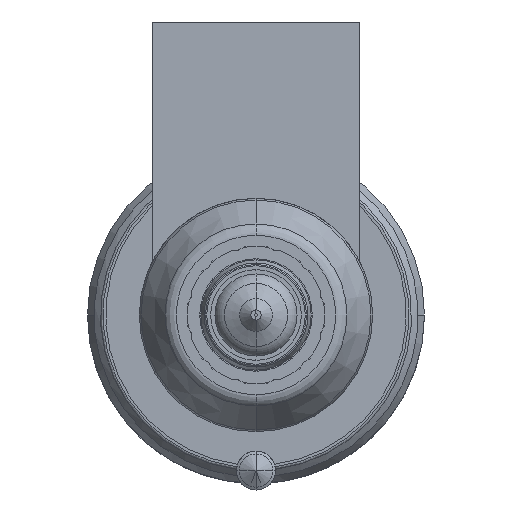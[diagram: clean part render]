
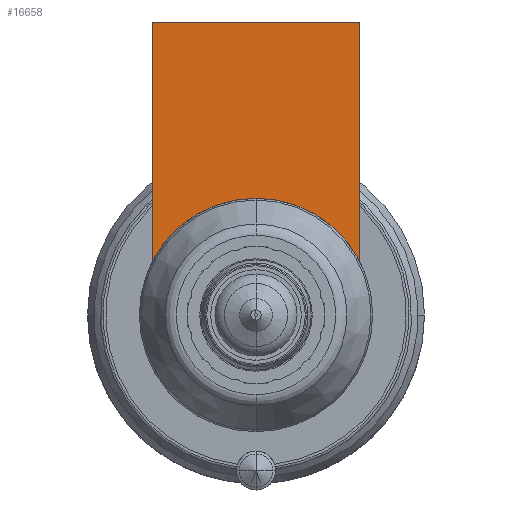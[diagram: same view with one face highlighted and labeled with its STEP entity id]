
A CAD part, front view. The second image highlights one B-rep face of the part: STEP entity #16658.
In plain terms, the highlighted planar face has unit normal (0, -1, 0).
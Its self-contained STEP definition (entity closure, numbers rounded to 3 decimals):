
#15244=DIRECTION('',(0.,0.,-1.));
#15245=VECTOR('',#15244,18.481);
#15246=CARTESIAN_POINT('',(-8.,-54.,22.604));
#15247=LINE('',#15246,#15245);
#15840=CARTESIAN_POINT('',(0.,-54.,0.));
#15841=DIRECTION('',(0.,-1.,0.));
#15842=DIRECTION('',(0.,0.,1.));
#15843=AXIS2_PLACEMENT_3D('',#15840,#15841,#15842);
#15848=DIRECTION('',(1.,0.,0.));
#15849=VECTOR('',#15848,16.);
#15850=CARTESIAN_POINT('',(-8.,-54.,22.604));
#15851=LINE('',#15850,#15849);
#15855=CARTESIAN_POINT('',(0.,-54.,0.));
#15856=DIRECTION('',(0.,-1.,0.));
#15857=DIRECTION('',(0.889,0.,0.458));
#15858=AXIS2_PLACEMENT_3D('',#15855,#15856,#15857);
#15939=DIRECTION('',(0.,0.,-1.));
#15940=VECTOR('',#15939,18.481);
#15941=CARTESIAN_POINT('',(8.,-54.,22.604));
#15942=LINE('',#15941,#15940);
#16044=CARTESIAN_POINT('',(-8.,-54.,22.604));
#16045=VERTEX_POINT('',#16044);
#16050=CARTESIAN_POINT('',(8.,-54.,22.604));
#16051=VERTEX_POINT('',#16050);
#16053=CARTESIAN_POINT('',(-8.,-54.,4.123));
#16055=VERTEX_POINT('',#16053);
#16057=CARTESIAN_POINT('',(8.,-54.,4.123));
#16059=VERTEX_POINT('',#16057);
#16060=CARTESIAN_POINT('',(0.,-54.,9.));
#16061=VERTEX_POINT('',#16060);
#16644=CARTESIAN_POINT('',(-8.,-54.,22.604));
#16645=DIRECTION('',(0.,-1.,0.));
#16646=DIRECTION('',(0.,0.,-1.));
#16647=AXIS2_PLACEMENT_3D('',#16644,#16645,#16646);
#16648=PLANE('',#16647);
#16649=ORIENTED_EDGE('',*,*,#16101,.T.);
#16650=ORIENTED_EDGE('',*,*,#16084,.F.);
#16652=ORIENTED_EDGE('',*,*,#16651,.T.);
#16654=ORIENTED_EDGE('',*,*,#16653,.T.);
#16655=ORIENTED_EDGE('',*,*,#16149,.T.);
#16656=EDGE_LOOP('',(#16649,#16650,#16652,#16654,#16655));
#16657=FACE_OUTER_BOUND('',#16656,.F.);
#16658=ADVANCED_FACE('',(#16657),#16648,.T.);
#15844=CIRCLE('',#15843,9.);
#15859=CIRCLE('',#15858,9.);
#16084=EDGE_CURVE('',#16045,#16055,#15247,.T.);
#16101=EDGE_CURVE('',#16061,#16055,#15844,.T.);
#16149=EDGE_CURVE('',#16059,#16061,#15859,.T.);
#16651=EDGE_CURVE('',#16045,#16051,#15851,.T.);
#16653=EDGE_CURVE('',#16051,#16059,#15942,.T.);
